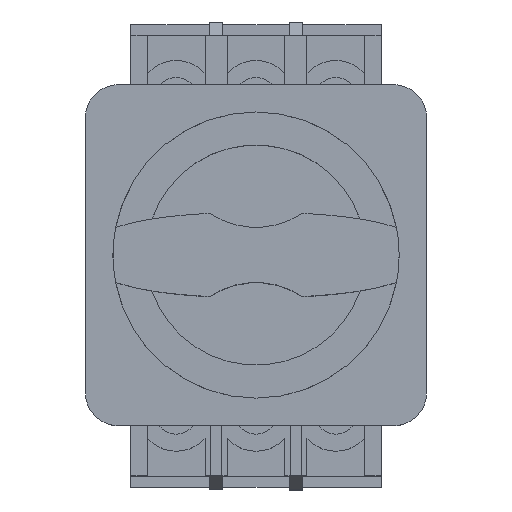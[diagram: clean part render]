
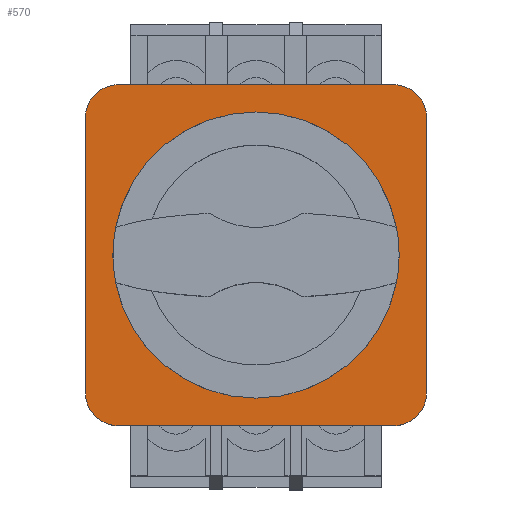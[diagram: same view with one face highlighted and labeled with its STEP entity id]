
A CAD part, top view. The second image highlights one B-rep face of the part: STEP entity #570.
In plain terms, the highlighted planar face has unit normal (0, 0, 1).
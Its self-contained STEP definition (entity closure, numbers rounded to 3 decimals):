
#14 = CARTESIAN_POINT ( 'NONE',  ( -25., -31., 102.8 ) ) ;
#94 = CARTESIAN_POINT ( 'NONE',  ( 24.25, 0., 102.8 ) ) ;
#311 = CARTESIAN_POINT ( 'NONE',  ( -25., 25., 102.8 ) ) ;
#395 = LINE ( 'NONE', #14, #4454 ) ;
#406 = EDGE_CURVE ( 'NONE', #2928, #2308, #10468, .T. ) ;
#445 = DIRECTION ( 'NONE',  ( 0., -1., 0. ) ) ;
#522 = CARTESIAN_POINT ( 'NONE',  ( -31., 25., 102.8 ) ) ;
#570 = ADVANCED_FACE ( 'NONE', ( #4448, #4170 ), #8024, .T. ) ;
#686 = EDGE_CURVE ( 'NONE', #1331, #1331, #9505, .T. ) ;
#835 = VECTOR ( 'NONE', #11236, 1000. ) ;
#865 = CARTESIAN_POINT ( 'NONE',  ( 31., -25., 102.8 ) ) ;
#1031 = VERTEX_POINT ( 'NONE', #865 ) ;
#1306 = DIRECTION ( 'NONE',  ( 0., 0., 1. ) ) ;
#1331 = VERTEX_POINT ( 'NONE', #94 ) ;
#1672 = CIRCLE ( 'NONE', #11243, 6. ) ;
#1965 = AXIS2_PLACEMENT_3D ( 'NONE', #4030, #7701, #8525 ) ;
#2081 = CARTESIAN_POINT ( 'NONE',  ( 25., -25., 102.8 ) ) ;
#2308 = VERTEX_POINT ( 'NONE', #10919 ) ;
#2371 = ORIENTED_EDGE ( 'NONE', *, *, #9345, .T. ) ;
#2629 = AXIS2_PLACEMENT_3D ( 'NONE', #10859, #5531, #9167 ) ;
#2826 = EDGE_LOOP ( 'NONE', ( #3921, #9344, #4618, #6290, #2371, #10387, #3403, #7885 ) ) ;
#2928 = VERTEX_POINT ( 'NONE', #5368 ) ;
#3169 = CIRCLE ( 'NONE', #8533, 6. ) ;
#3181 = DIRECTION ( 'NONE',  ( 0., 0., 1. ) ) ;
#3190 = CARTESIAN_POINT ( 'NONE',  ( 25., 31., 102.8 ) ) ;
#3403 = ORIENTED_EDGE ( 'NONE', *, *, #6305, .T. ) ;
#3437 = CARTESIAN_POINT ( 'NONE',  ( 25., -31., 102.8 ) ) ;
#3474 = EDGE_CURVE ( 'NONE', #10001, #1031, #5072, .T. ) ;
#3587 = CARTESIAN_POINT ( 'NONE',  ( 25., 31., 102.8 ) ) ;
#3616 = DIRECTION ( 'NONE',  ( 1., 0., 0. ) ) ;
#3921 = ORIENTED_EDGE ( 'NONE', *, *, #5519, .T. ) ;
#3932 = EDGE_CURVE ( 'NONE', #4323, #4086, #4362, .T. ) ;
#4030 = CARTESIAN_POINT ( 'NONE',  ( -25., -25., 102.8 ) ) ;
#4086 = VERTEX_POINT ( 'NONE', #10962 ) ;
#4125 = DIRECTION ( 'NONE',  ( 0., 0., 1. ) ) ;
#4170 = FACE_OUTER_BOUND ( 'NONE', #2826, .T. ) ;
#4255 = EDGE_LOOP ( 'NONE', ( #10212 ) ) ;
#4323 = VERTEX_POINT ( 'NONE', #3190 ) ;
#4362 = LINE ( 'NONE', #3587, #8447 ) ;
#4389 = DIRECTION ( 'NONE',  ( 1., 0., 0. ) ) ;
#4423 = DIRECTION ( 'NONE',  ( 0., 0., 1. ) ) ;
#4448 = FACE_BOUND ( 'NONE', #4255, .T. ) ;
#4454 = VECTOR ( 'NONE', #3616, 1000. ) ;
#4618 = ORIENTED_EDGE ( 'NONE', *, *, #3932, .T. ) ;
#4738 = DIRECTION ( 'NONE',  ( 1., 0., 0. ) ) ;
#4773 = EDGE_CURVE ( 'NONE', #4086, #7886, #1672, .T. ) ;
#5072 = CIRCLE ( 'NONE', #9529, 6. ) ;
#5368 = CARTESIAN_POINT ( 'NONE',  ( -31., -25., 102.8 ) ) ;
#5519 = EDGE_CURVE ( 'NONE', #1031, #7464, #9807, .T. ) ;
#5531 = DIRECTION ( 'NONE',  ( 0., 0., 1. ) ) ;
#5953 = CARTESIAN_POINT ( 'NONE',  ( 31., -25., 102.8 ) ) ;
#6290 = ORIENTED_EDGE ( 'NONE', *, *, #4773, .T. ) ;
#6305 = EDGE_CURVE ( 'NONE', #2308, #10001, #395, .T. ) ;
#6576 = LINE ( 'NONE', #522, #8970 ) ;
#6807 = DIRECTION ( 'NONE',  ( 1., 0., 0. ) ) ;
#7464 = VERTEX_POINT ( 'NONE', #11217 ) ;
#7701 = DIRECTION ( 'NONE',  ( 0., 0., 1. ) ) ;
#7885 = ORIENTED_EDGE ( 'NONE', *, *, #3474, .T. ) ;
#7886 = VERTEX_POINT ( 'NONE', #10943 ) ;
#8024 = PLANE ( 'NONE',  #9582 ) ;
#8124 = DIRECTION ( 'NONE',  ( -1., 0., 0. ) ) ;
#8447 = VECTOR ( 'NONE', #8124, 1000. ) ;
#8525 = DIRECTION ( 'NONE',  ( 1., 0., 0. ) ) ;
#8533 = AXIS2_PLACEMENT_3D ( 'NONE', #11412, #4125, #10406 ) ;
#8970 = VECTOR ( 'NONE', #445, 1000. ) ;
#9167 = DIRECTION ( 'NONE',  ( 1., 0., 0. ) ) ;
#9344 = ORIENTED_EDGE ( 'NONE', *, *, #10952, .T. ) ;
#9345 = EDGE_CURVE ( 'NONE', #7886, #2928, #6576, .T. ) ;
#9505 = CIRCLE ( 'NONE', #2629, 24.25 ) ;
#9529 = AXIS2_PLACEMENT_3D ( 'NONE', #2081, #3181, #6807 ) ;
#9582 = AXIS2_PLACEMENT_3D ( 'NONE', #10818, #4423, #4389 ) ;
#9807 = LINE ( 'NONE', #5953, #835 ) ;
#10001 = VERTEX_POINT ( 'NONE', #3437 ) ;
#10212 = ORIENTED_EDGE ( 'NONE', *, *, #686, .F. ) ;
#10387 = ORIENTED_EDGE ( 'NONE', *, *, #406, .T. ) ;
#10406 = DIRECTION ( 'NONE',  ( 1., 0., 0. ) ) ;
#10468 = CIRCLE ( 'NONE', #1965, 6. ) ;
#10818 = CARTESIAN_POINT ( 'NONE',  ( 0., 0., 102.8 ) ) ;
#10859 = CARTESIAN_POINT ( 'NONE',  ( 0., 0., 102.8 ) ) ;
#10919 = CARTESIAN_POINT ( 'NONE',  ( -25., -31., 102.8 ) ) ;
#10943 = CARTESIAN_POINT ( 'NONE',  ( -31., 25., 102.8 ) ) ;
#10952 = EDGE_CURVE ( 'NONE', #7464, #4323, #3169, .T. ) ;
#10962 = CARTESIAN_POINT ( 'NONE',  ( -25., 31., 102.8 ) ) ;
#11217 = CARTESIAN_POINT ( 'NONE',  ( 31., 25., 102.8 ) ) ;
#11236 = DIRECTION ( 'NONE',  ( 0., 1., 0. ) ) ;
#11243 = AXIS2_PLACEMENT_3D ( 'NONE', #311, #1306, #4738 ) ;
#11412 = CARTESIAN_POINT ( 'NONE',  ( 25., 25., 102.8 ) ) ;
